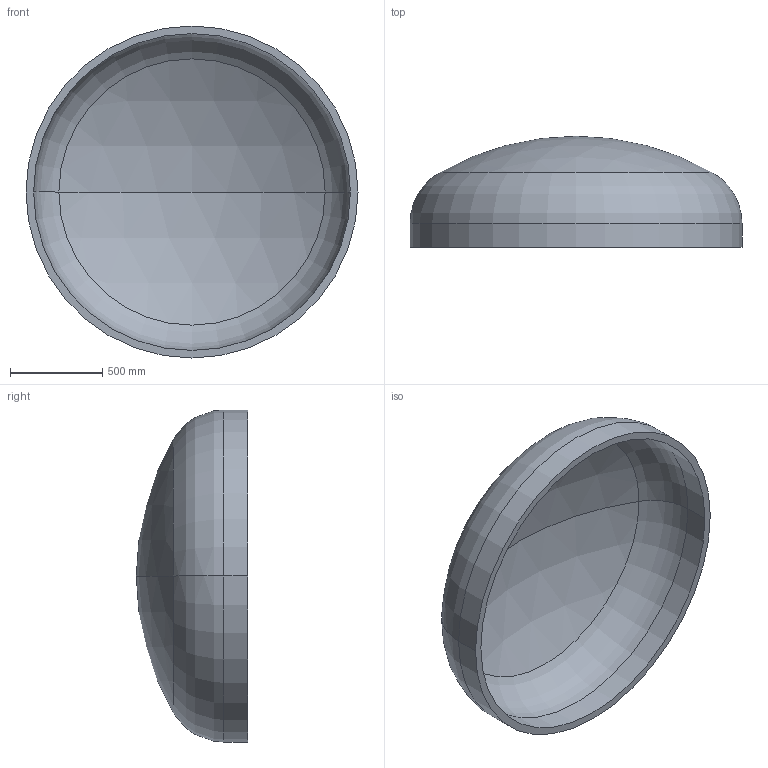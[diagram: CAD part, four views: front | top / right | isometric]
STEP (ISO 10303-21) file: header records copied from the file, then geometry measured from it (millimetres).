
FILE_DESCRIPTION (( 'STEP AP203' ), '1' );
FILE_NAME ('DIN 28013 Korbbogenform_-_Boden DIN 28013 - 1800 x 130 - I - s=41.step', '2016-07-01T12:30:09', ( '' ), ( '' ), 'SwSTEP 2.0', 'SolidWorks 2013', '' );
FILE_SCHEMA (( 'CONFIG_CONTROL_DESIGN' ));
Length unit declared in the file: millimetre
Products named in the file (1): DIN 28013 Korbbogenform_-_Boden DIN 28013 - 1800 x 130 - I - s=41
Bounding box: 1800 x 602.95 x 1800 mm (x, y, z)
Volume: 169470654.7 mm3; surface area: 8496947.9 mm2
Topology: 1 solids, 1 shells, 13 faces, 24 edges, 14 vertices
Faces by surface type: torus 4, cylinder 4, sphere 4, plane 1
Entity records: 407 total; most frequent: DIRECTION 72, CARTESIAN_POINT 52, ORIENTED_EDGE 48, AXIS2_PLACEMENT_3D 34, EDGE_CURVE 24, CIRCLE 20, VERTEX_POINT 14, EDGE_LOOP 14
